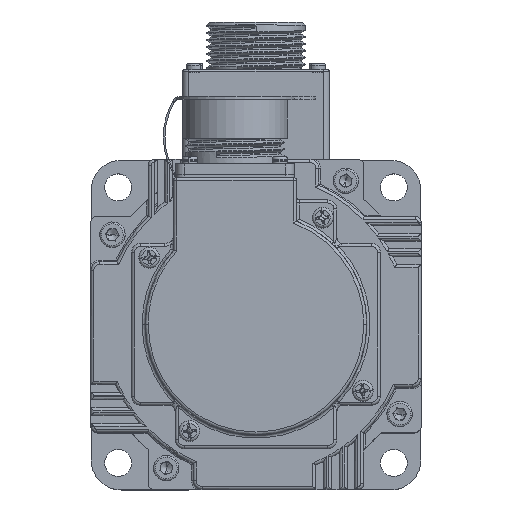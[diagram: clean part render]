
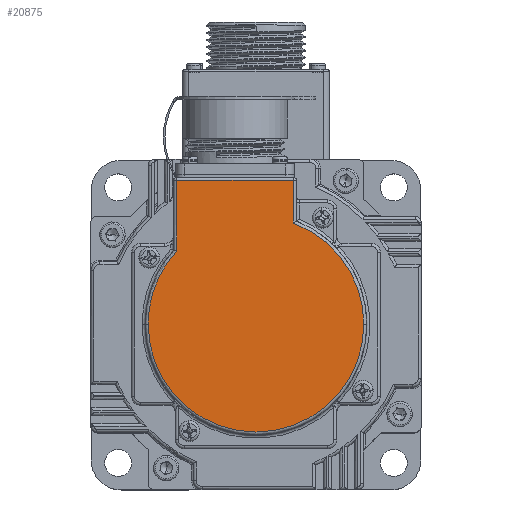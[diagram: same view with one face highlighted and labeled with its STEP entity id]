
A CAD part, top view. The second image highlights one B-rep face of the part: STEP entity #20875.
In plain terms, the highlighted planar face has unit normal (0, 0, 1).
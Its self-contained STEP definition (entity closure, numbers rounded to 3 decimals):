
#1234 = VERTEX_POINT ( 'NONE', #32076 ) ;
#3787 = DIRECTION ( 'NONE',  ( 0., 0., 1. ) ) ;
#4508 = DIRECTION ( 'NONE',  ( 1., 0., 0. ) ) ;
#6227 = EDGE_CURVE ( 'NONE', #14007, #1234, #13139, .T. ) ;
#6272 = CARTESIAN_POINT ( 'NONE',  ( -74.349, 78.091, 120.3 ) ) ;
#6709 = CARTESIAN_POINT ( 'NONE',  ( -74.349, 54.845, 120.3 ) ) ;
#6769 = LINE ( 'NONE', #28902, #37570 ) ;
#7181 = VECTOR ( 'NONE', #47351, 1000. ) ;
#7444 = EDGE_CURVE ( 'NONE', #13746, #19078, #23831, .T. ) ;
#8334 = DIRECTION ( 'NONE',  ( 0., 0., 1. ) ) ;
#8647 = EDGE_LOOP ( 'NONE', ( #10867, #26701, #8816, #33347, #16124, #21449 ) ) ;
#8816 = ORIENTED_EDGE ( 'NONE', *, *, #6227, .T. ) ;
#8901 = AXIS2_PLACEMENT_3D ( 'NONE', #28200, #39303, #39426 ) ;
#10435 = DIRECTION ( 'NONE',  ( 0., 1., 0. ) ) ;
#10867 = ORIENTED_EDGE ( 'NONE', *, *, #28824, .T. ) ;
#13139 = LINE ( 'NONE', #6709, #7181 ) ;
#13746 = VERTEX_POINT ( 'NONE', #40859 ) ;
#14007 = VERTEX_POINT ( 'NONE', #6272 ) ;
#16124 = ORIENTED_EDGE ( 'NONE', *, *, #27002, .T. ) ;
#16252 = CIRCLE ( 'NONE', #20963, 36. ) ;
#16788 = CARTESIAN_POINT ( 'NONE',  ( -35.349, 78.091, 120.3 ) ) ;
#16907 = EDGE_CURVE ( 'NONE', #31508, #14007, #32601, .T. ) ;
#17061 = CARTESIAN_POINT ( 'NONE',  ( -83.849, 30.091, 120.3 ) ) ;
#18459 = AXIS2_PLACEMENT_3D ( 'NONE', #19871, #8334, #39104 ) ;
#19078 = VERTEX_POINT ( 'NONE', #39298 ) ;
#19871 = CARTESIAN_POINT ( 'NONE',  ( -47.849, 30.091, 120.3 ) ) ;
#20875 = ADVANCED_FACE ( 'NONE', ( #42308 ), #46773, .T. ) ;
#20963 = AXIS2_PLACEMENT_3D ( 'NONE', #26629, #3787, #4508 ) ;
#21449 = ORIENTED_EDGE ( 'NONE', *, *, #7444, .T. ) ;
#23831 = CIRCLE ( 'NONE', #8901, 36. ) ;
#26629 = CARTESIAN_POINT ( 'NONE',  ( -47.849, 30.091, 120.3 ) ) ;
#26701 = ORIENTED_EDGE ( 'NONE', *, *, #16907, .T. ) ;
#27002 = EDGE_CURVE ( 'NONE', #28022, #13746, #34286, .T. ) ;
#27880 = EDGE_CURVE ( 'NONE', #1234, #28022, #16252, .T. ) ;
#28022 = VERTEX_POINT ( 'NONE', #17061 ) ;
#28200 = CARTESIAN_POINT ( 'NONE',  ( -47.849, 30.091, 120.3 ) ) ;
#28824 = EDGE_CURVE ( 'NONE', #19078, #31508, #6769, .T. ) ;
#28902 = CARTESIAN_POINT ( 'NONE',  ( -35.349, 79.091, 120.3 ) ) ;
#30677 = DIRECTION ( 'NONE',  ( 1., 0., 0. ) ) ;
#31508 = VERTEX_POINT ( 'NONE', #16788 ) ;
#32076 = CARTESIAN_POINT ( 'NONE',  ( -74.349, 54.458, 120.3 ) ) ;
#32601 = LINE ( 'NONE', #47689, #44514 ) ;
#33347 = ORIENTED_EDGE ( 'NONE', *, *, #27880, .T. ) ;
#34286 = CIRCLE ( 'NONE', #46937, 36. ) ;
#37570 = VECTOR ( 'NONE', #10435, 1000. ) ;
#38542 = DIRECTION ( 'NONE',  ( 0., 0., 1. ) ) ;
#39104 = DIRECTION ( 'NONE',  ( 1., 0., 0. ) ) ;
#39298 = CARTESIAN_POINT ( 'NONE',  ( -35.349, 63.851, 120.3 ) ) ;
#39303 = DIRECTION ( 'NONE',  ( 0., 0., 1. ) ) ;
#39426 = DIRECTION ( 'NONE',  ( 1., 0., 0. ) ) ;
#40717 = DIRECTION ( 'NONE',  ( -1., 0., 0. ) ) ;
#40859 = CARTESIAN_POINT ( 'NONE',  ( -11.849, 30.091, 120.3 ) ) ;
#42308 = FACE_OUTER_BOUND ( 'NONE', #8647, .T. ) ;
#44514 = VECTOR ( 'NONE', #40717, 1000. ) ;
#46247 = CARTESIAN_POINT ( 'NONE',  ( -47.849, 30.091, 120.3 ) ) ;
#46773 = PLANE ( 'NONE',  #18459 ) ;
#46937 = AXIS2_PLACEMENT_3D ( 'NONE', #46247, #38542, #30677 ) ;
#47351 = DIRECTION ( 'NONE',  ( 0., -1., 0. ) ) ;
#47689 = CARTESIAN_POINT ( 'NONE',  ( -75.349, 78.091, 120.3 ) ) ;
